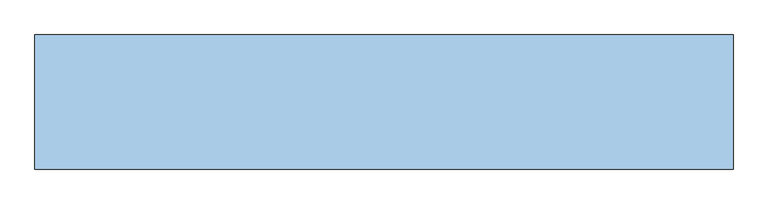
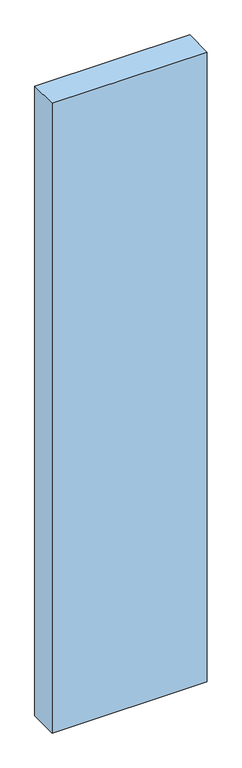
"""IFC4 building model written with IfcOpenShell, lengths in millimetres: window geometry, Dr_Проем-Четверти_об модель : ОК."""

from ifc_helpers import new_model, si_unit, frame, origin, place, context, project, spatial, polyline, outline, extrude, source, transform, mapped, element, save


def window_08678522(model_context):
    return source(origin(), model_context, "Body", "SweptSolid", [
        extrude(outline(polyline([(655.0, -100.0), (-385.0, -100.0), (-385.0, 100.0), (655.0, 100.0), (655.0, -100.0)])), frame((0.0, 0.0, -70.0), z_axis=(0.0, 0.0, 1.0), x_axis=(1.0, 0.0, 0.0)), (0.0, 0.0, 1.0), 4460.0),
    ])


if __name__ == "__main__":
    model = new_model("IFC4")
    model_context = context("Model", 3, world=origin())
    ifc_project = project(units=[si_unit("LENGTHUNIT", "METRE", prefix="MILLI")], contexts=[model_context])
    site = spatial("IfcSite", under=ifc_project)
    building = spatial("IfcBuilding", under=site)
    placement = place(None, origin())
    window_shape = window_08678522(model_context)
    element("IfcWindow", 1, ObjectType="Dr_Проем-Четверти_об модель : ОК", at=placement, inside=building, context=model_context, shape_type="MappedRepresentation", body=[
        mapped(window_shape, transform((0.0, 0.0, 0.0), x_axis=(1.0, 0.0, 0.0), y_axis=(0.0, 1.0, 0.0), z_axis=(0.0, 0.0, 1.0))),
    ])
    save(model, "model.ifc")
